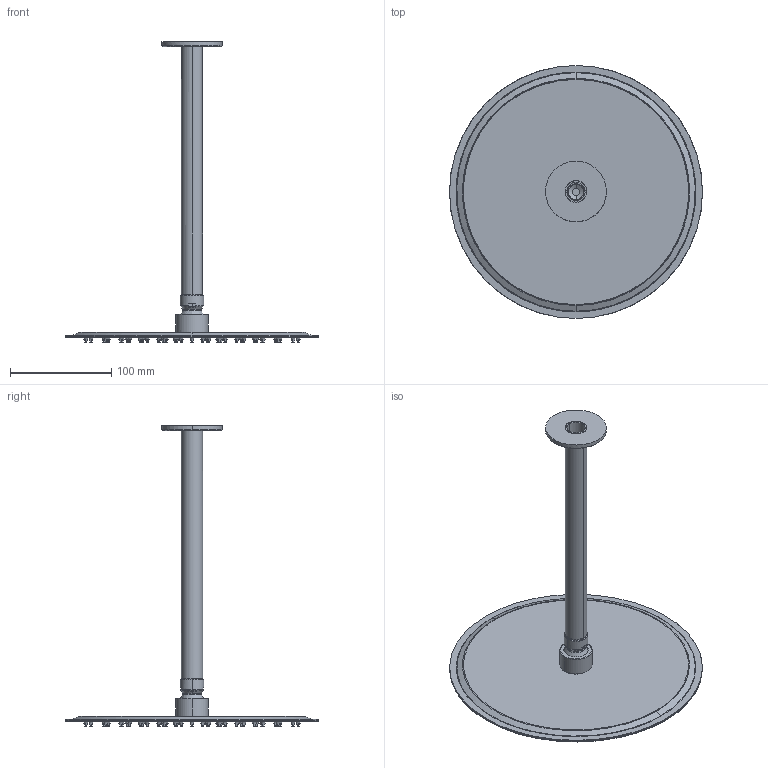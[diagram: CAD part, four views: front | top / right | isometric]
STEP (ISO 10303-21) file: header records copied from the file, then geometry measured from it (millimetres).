
FILE_DESCRIPTION(/* description */ (''),/* implementation_level */ '2;1');
FILE_NAME(/* name */ 'ST2083ACC',/* time_stamp */ '2024-02-26T12:09:22+01:00',/* author */ (''),/* organization */ (''),/* preprocessor_version */ 'ST-DEVELOPER v16.5',/* originating_system */ 'Rhino 7.36',/* authorisation */ '');
FILE_SCHEMA (('CONFIG_CONTROL_DESIGN'));
Length unit declared in the file: millimetre
Products named in the file (3): Document; T.RA1404 01; T.RA140
Assembly tree (2 placements, depth 3):
  Document
    T.RA1404 01
      T.RA140
Bounding box: 250 x 250 x 297.16 mm (x, y, z)
Volume: 150123.4 mm3; surface area: 255793.7 mm2
Topology: 95 solids, 96 shells, 1342 faces, 2874 edges, 1729 vertices
Faces by surface type: cylinder 570, bspline 569, plane 203
Entity records: 42580 total; most frequent: CARTESIAN_POINT 24066, ORIENTED_EDGE 5736, EDGE_CURVE 2870, VERTEX_POINT 1729, EDGE_LOOP 1717, ADVANCED_FACE 1342, FACE_OUTER_BOUND 1342, DIRECTION 789
